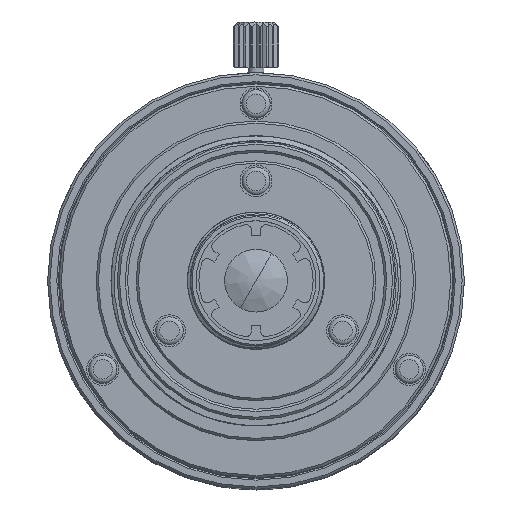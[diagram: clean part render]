
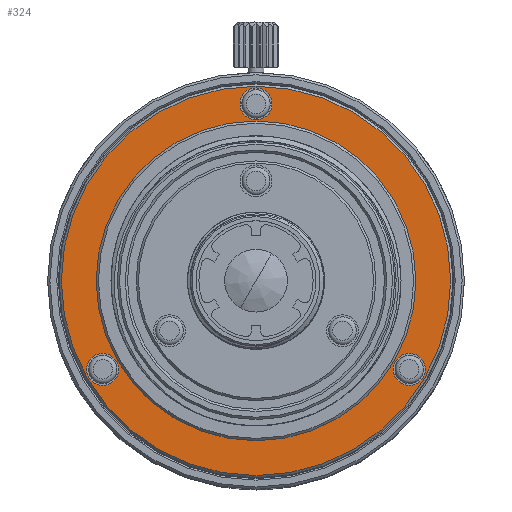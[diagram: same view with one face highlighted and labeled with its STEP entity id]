
A CAD part, top view. The second image highlights one B-rep face of the part: STEP entity #324.
In plain terms, the highlighted planar face has unit normal (0, 0, 1).
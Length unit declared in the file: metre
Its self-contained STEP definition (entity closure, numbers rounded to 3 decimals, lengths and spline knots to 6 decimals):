
#324 = ADVANCED_FACE( 'NONE', ( #877, #878, #879, #880, #881 ), #882, .T. );
#877 = FACE_OUTER_BOUND( '', #1747, .T. );
#878 = FACE_BOUND( '', #1748, .T. );
#879 = FACE_BOUND( '', #1749, .T. );
#880 = FACE_BOUND( '', #1750, .T. );
#881 = FACE_BOUND( '', #1751, .T. );
#882 = PLANE( '', #1752 );
#1747 = EDGE_LOOP( '', ( #4886 ) );
#1748 = EDGE_LOOP( '', ( #4887 ) );
#1749 = EDGE_LOOP( '', ( #4888 ) );
#1750 = EDGE_LOOP( '', ( #4889 ) );
#1751 = EDGE_LOOP( '', ( #4890 ) );
#1752 = AXIS2_PLACEMENT_3D( '', #4891, #4892, #4893 );
#4886 = ORIENTED_EDGE( '', *, *, #7099, .T. );
#4887 = ORIENTED_EDGE( '', *, *, #7100, .F. );
#4888 = ORIENTED_EDGE( '', *, *, #7101, .F. );
#4889 = ORIENTED_EDGE( '', *, *, #7102, .F. );
#4890 = ORIENTED_EDGE( '', *, *, #7103, .F. );
#4891 = CARTESIAN_POINT( '', ( 0., 0.0193, -0.0198 ) );
#4892 = DIRECTION( '', ( 0., 0., 1. ) );
#4893 = DIRECTION( '', ( 1., 0., 0. ) );
#7099 = EDGE_CURVE( 'NONE', #8133, #8133, #8134, .T. );
#7100 = EDGE_CURVE( 'NONE', #8135, #8135, #8136, .T. );
#7101 = EDGE_CURVE( 'NONE', #8137, #8137, #8138, .T. );
#7102 = EDGE_CURVE( 'NONE', #8139, #8139, #8140, .T. );
#7103 = EDGE_CURVE( 'NONE', #8141, #8141, #8142, .T. );
#8133 = VERTEX_POINT( '', #9952 );
#8134 = CIRCLE( '', #9953, 0.01705 );
#8135 = VERTEX_POINT( '', #9954 );
#8136 = CIRCLE( '', #9955, 0.0014 );
#8137 = VERTEX_POINT( '', #9956 );
#8138 = CIRCLE( '', #9957, 0.0014 );
#8139 = VERTEX_POINT( '', #9958 );
#8140 = CIRCLE( '', #9959, 0.0014 );
#8141 = VERTEX_POINT( '', #9960 );
#8142 = CIRCLE( '', #9961, 0.014 );
#9952 = CARTESIAN_POINT( '', ( 0.01705, 0., -0.0198 ) );
#9953 = AXIS2_PLACEMENT_3D( '', #13944, #13945, #13946 );
#9954 = CARTESIAN_POINT( '', ( 0.014823, -0.00775, -0.0198 ) );
#9955 = AXIS2_PLACEMENT_3D( '', #13947, #13948, #13949 );
#9956 = CARTESIAN_POINT( '', ( -0.012023, -0.00775, -0.0198 ) );
#9957 = AXIS2_PLACEMENT_3D( '', #13950, #13951, #13952 );
#9958 = CARTESIAN_POINT( '', ( 0.0014, 0.0155, -0.0198 ) );
#9959 = AXIS2_PLACEMENT_3D( '', #13953, #13954, #13955 );
#9960 = CARTESIAN_POINT( '', ( 0.014, 0., -0.0198 ) );
#9961 = AXIS2_PLACEMENT_3D( '', #13956, #13957, #13958 );
#13944 = CARTESIAN_POINT( '', ( 0., 0., -0.0198 ) );
#13945 = DIRECTION( '', ( 0., 0., 1. ) );
#13946 = DIRECTION( '', ( 1., 0., 0. ) );
#13947 = CARTESIAN_POINT( '', ( 0.013423, -0.00775, -0.0198 ) );
#13948 = DIRECTION( '', ( 0., 0., 1. ) );
#13949 = DIRECTION( '', ( 1., 0., 0. ) );
#13950 = CARTESIAN_POINT( '', ( -0.013423, -0.00775, -0.0198 ) );
#13951 = DIRECTION( '', ( 0., 0., 1. ) );
#13952 = DIRECTION( '', ( 1., 0., 0. ) );
#13953 = CARTESIAN_POINT( '', ( 0., 0.0155, -0.0198 ) );
#13954 = DIRECTION( '', ( 0., 0., 1. ) );
#13955 = DIRECTION( '', ( 1., 0., 0. ) );
#13956 = CARTESIAN_POINT( '', ( 0., 0., -0.0198 ) );
#13957 = DIRECTION( '', ( 0., 0., 1. ) );
#13958 = DIRECTION( '', ( 1., 0., 0. ) );
